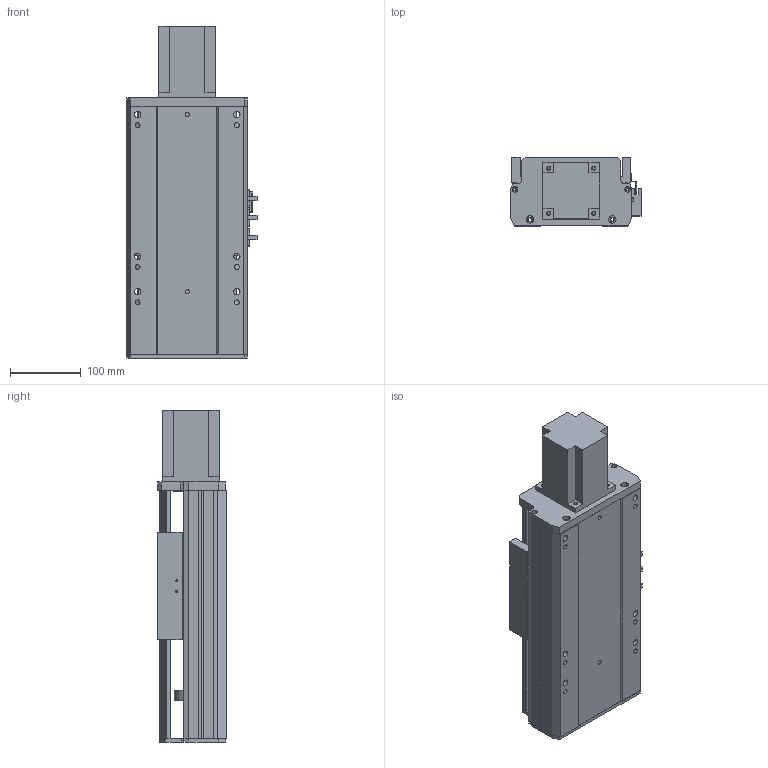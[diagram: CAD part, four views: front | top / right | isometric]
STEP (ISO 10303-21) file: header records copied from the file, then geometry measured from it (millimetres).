
FILE_DESCRIPTION (( 'STEP AP203' ), '1' );
FILE_NAME ('Y170-D10-S100-BD-P750W.STEP', '2020-01-22T03:46:24', ( '微软用户' ), ( '微软中国' ), 'SwSTEP 2.0', 'SolidWorks 2017', '' );
FILE_SCHEMA (( 'CONFIG_CONTROL_DESIGN' ));
Length unit declared in the file: millimetre
Products named in the file (11): Y170-6303; Y170耜裔--準---; Y170-陔遴奻裔-BD; YD-Y100-135-新外置传感挡片(通用）; Y170--雄赽釱-梓--; Y100-135俋离換覜ん; Y170-D10-S100-BD-P750W; 170--掛极-BD; Y170-萇儂楊擘啣--; 135-盓傅釱-FK15; 侂狟750W
Assembly tree (12 placements, depth 2):
  Y170-D10-S100-BD-P750W
    YD-Y100-135-新外置传感挡片(通用）
    Y100-135俋离換覜ん  x3
    170--掛极-BD
    Y170-萇儂楊擘啣--
    135-盓傅釱-FK15
    侂狟750W
    Y170-6303
    Y170耜裔--準---
    Y170-陔遴奻裔-BD
    Y170--雄赽釱-梓--
Bounding box: 183.5 x 97 x 468.5 mm (x, y, z)
Volume: 2521797.8 mm3; surface area: 723408.9 mm2
Topology: 12 solids, 12 shells, 786 faces, 2175 edges, 1440 vertices
Faces by surface type: cylinder 394, plane 390, torus 2
Entity records: 25024 total; most frequent: CARTESIAN_POINT 4262, DIRECTION 4219, ORIENTED_EDGE 4014, EDGE_CURVE 2007, AXIS2_PLACEMENT_3D 1509, VERTEX_POINT 1328, VECTOR 1201, LINE 1201
